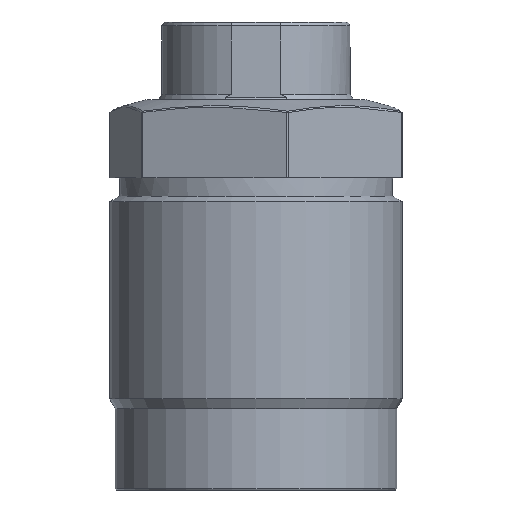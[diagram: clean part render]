
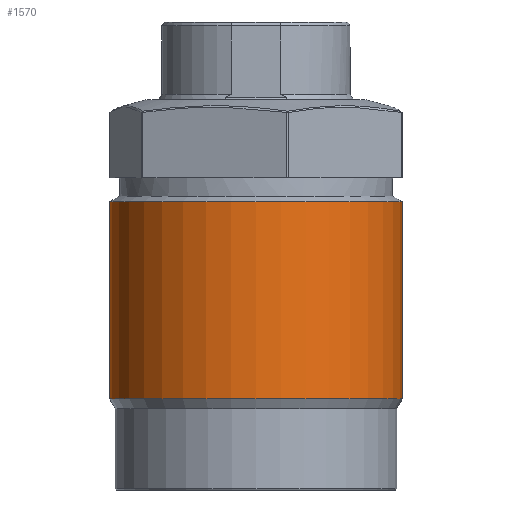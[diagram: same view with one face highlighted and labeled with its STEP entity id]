
A CAD part, front view. The second image highlights one B-rep face of the part: STEP entity #1570.
In plain terms, the highlighted cylindrical face has radius 22.5 mm (diameter 45 mm), a partial arc.
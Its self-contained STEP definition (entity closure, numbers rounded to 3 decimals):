
#151 = EDGE_CURVE ( 'NONE', #2576, #1146, #455, .T. ) ;
#378 = CARTESIAN_POINT ( 'NONE',  ( 22.5, 0., 44.345 ) ) ;
#455 = CIRCLE ( 'NONE', #2661, 22.5 ) ;
#465 = CARTESIAN_POINT ( 'NONE',  ( -22.5, 0., 48. ) ) ;
#496 = CARTESIAN_POINT ( 'NONE',  ( 0., 0., 48. ) ) ;
#599 = CARTESIAN_POINT ( 'NONE',  ( -22.5, 0., 44.345 ) ) ;
#722 = CYLINDRICAL_SURFACE ( 'NONE', #2788, 22.5 ) ;
#852 = VECTOR ( 'NONE', #3377, 1000. ) ;
#876 = ORIENTED_EDGE ( 'NONE', *, *, #2605, .F. ) ;
#1030 = DIRECTION ( 'NONE',  ( -1., 0., 0. ) ) ;
#1038 = VECTOR ( 'NONE', #2554, 1000. ) ;
#1069 = CARTESIAN_POINT ( 'NONE',  ( 0., 0., 44.345 ) ) ;
#1146 = VERTEX_POINT ( 'NONE', #599 ) ;
#1317 = FACE_OUTER_BOUND ( 'NONE', #3093, .T. ) ;
#1498 = DIRECTION ( 'NONE',  ( -1., 0., 0. ) ) ;
#1570 = ADVANCED_FACE ( 'NONE', ( #1317 ), #722, .T. ) ;
#1802 = CIRCLE ( 'NONE', #2728, 22.5 ) ;
#1906 = VERTEX_POINT ( 'NONE', #3151 ) ;
#2010 = VERTEX_POINT ( 'NONE', #2211 ) ;
#2075 = DIRECTION ( 'NONE',  ( 0., 0., 1. ) ) ;
#2173 = ORIENTED_EDGE ( 'NONE', *, *, #2456, .T. ) ;
#2174 = CARTESIAN_POINT ( 'NONE',  ( 22.5, 0., 48. ) ) ;
#2211 = CARTESIAN_POINT ( 'NONE',  ( 22.5, 0., 14. ) ) ;
#2423 = ORIENTED_EDGE ( 'NONE', *, *, #151, .T. ) ;
#2455 = LINE ( 'NONE', #2174, #852 ) ;
#2456 = EDGE_CURVE ( 'NONE', #1906, #2010, #1802, .T. ) ;
#2554 = DIRECTION ( 'NONE',  ( 0., 0., -1. ) ) ;
#2576 = VERTEX_POINT ( 'NONE', #378 ) ;
#2605 = EDGE_CURVE ( 'NONE', #2576, #2010, #2455, .T. ) ;
#2657 = CARTESIAN_POINT ( 'NONE',  ( 0., 0., 14. ) ) ;
#2661 = AXIS2_PLACEMENT_3D ( 'NONE', #1069, #3710, #1030 ) ;
#2728 = AXIS2_PLACEMENT_3D ( 'NONE', #2657, #2075, #1498 ) ;
#2788 = AXIS2_PLACEMENT_3D ( 'NONE', #496, #3463, #2851 ) ;
#2851 = DIRECTION ( 'NONE',  ( -1., 0., 0. ) ) ;
#3054 = ORIENTED_EDGE ( 'NONE', *, *, #3168, .T. ) ;
#3093 = EDGE_LOOP ( 'NONE', ( #876, #2423, #3054, #2173 ) ) ;
#3131 = LINE ( 'NONE', #465, #1038 ) ;
#3151 = CARTESIAN_POINT ( 'NONE',  ( -22.5, 0., 14. ) ) ;
#3168 = EDGE_CURVE ( 'NONE', #1146, #1906, #3131, .T. ) ;
#3377 = DIRECTION ( 'NONE',  ( 0., 0., -1. ) ) ;
#3463 = DIRECTION ( 'NONE',  ( 0., 0., -1. ) ) ;
#3710 = DIRECTION ( 'NONE',  ( 0., 0., -1. ) ) ;
